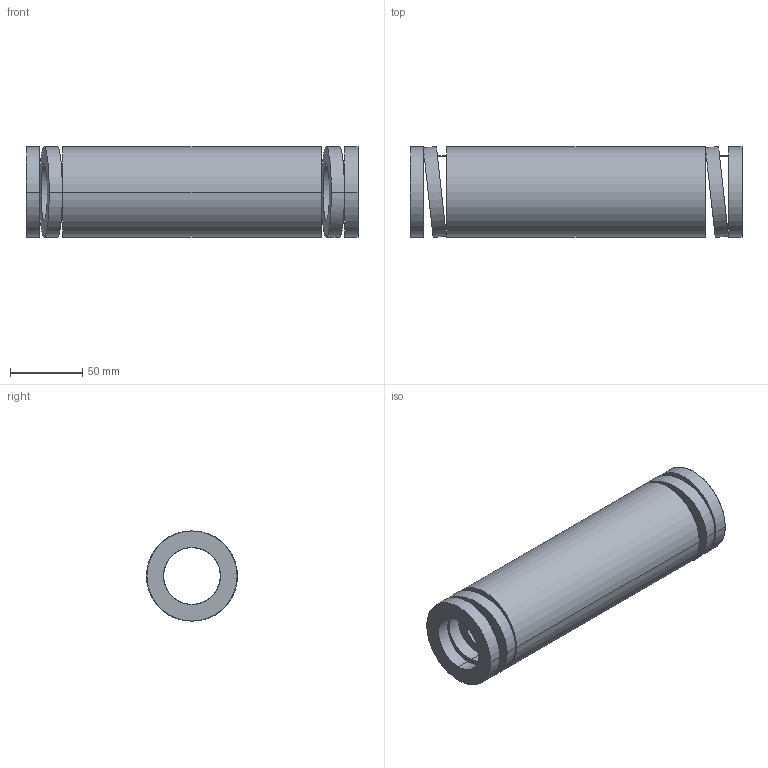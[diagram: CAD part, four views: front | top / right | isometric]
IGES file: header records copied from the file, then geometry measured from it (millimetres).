
Start section: START RECORD GO HERE.
Global section: file name: 392-B63-229.igs; native system: DASSAULT SYSTEMES CATIA V5 R20 - www.3ds.com; preprocessor: CATIA Version 5 Release 20 ; author: Utente; organization: NB04-ASUS; date: 20210813.134349; units: millimetre
Bounding box: 229 x 62.82 x 62.2 mm (x, y, z)
Surface area: 86726.4 mm2 (no closed solid volume)
Topology: 0 solids, 0 shells, 38 faces, 184 edges, 184 vertices
Faces by surface type: revolution 28, plane 10
